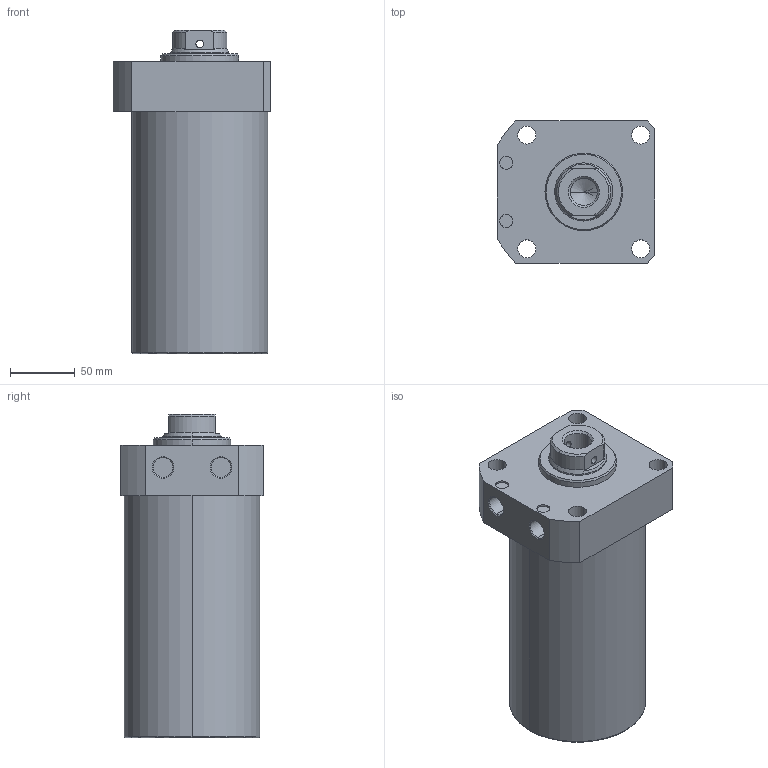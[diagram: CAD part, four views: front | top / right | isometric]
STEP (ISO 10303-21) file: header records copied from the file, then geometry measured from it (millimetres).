
FILE_DESCRIPTION (( 'STEP AP203' ), '1' );
FILE_NAME ('CLLR-105CB-140.STEP', '2019-12-18T07:37:53', ( '' ), ( '' ), 'SwSTEP 2.0', 'SolidWorks 2015', '' );
FILE_SCHEMA (( 'CONFIG_CONTROL_DESIGN' ));
Length unit declared in the file: millimetre
Products named in the file (1): CLLR-105CB-140
Bounding box: 122 x 110 x 250 mm (x, y, z)
Volume: 2115964 mm3; surface area: 120447.7 mm2
Topology: 1 solids, 1 shells, 69 faces, 165 edges, 104 vertices
Faces by surface type: cylinder 33, plane 19, cone 15, torus 2
Entity records: 2227 total; most frequent: CARTESIAN_POINT 481, DIRECTION 372, ORIENTED_EDGE 326, EDGE_CURVE 163, AXIS2_PLACEMENT_3D 151, VERTEX_POINT 104, EDGE_LOOP 89, CIRCLE 81
